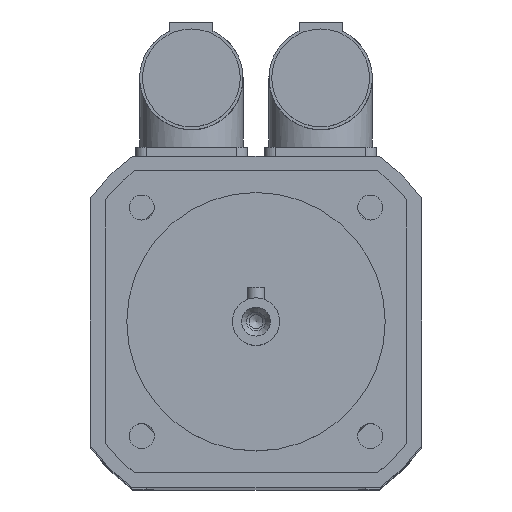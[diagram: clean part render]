
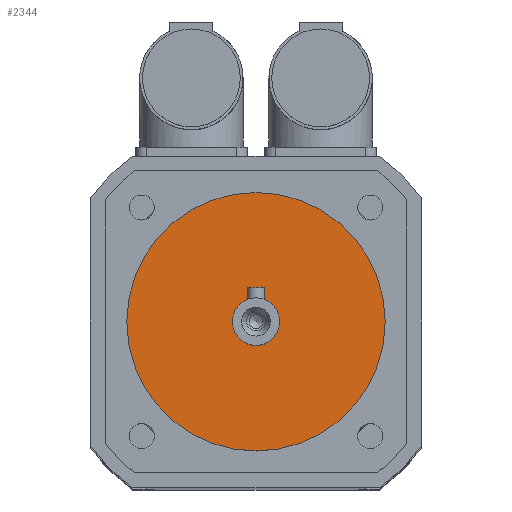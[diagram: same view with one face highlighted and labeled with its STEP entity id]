
A CAD part, top view. The second image highlights one B-rep face of the part: STEP entity #2344.
In plain terms, the highlighted planar face has unit normal (0, 0, 1).
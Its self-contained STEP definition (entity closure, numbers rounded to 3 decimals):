
#472=PLANE('',#2526);
#587=FACE_BOUND('',#805,.T.);
#653=FACE_OUTER_BOUND('',#804,.T.);
#804=EDGE_LOOP('',(#1839));
#805=EDGE_LOOP('',(#1840));
#951=CIRCLE('',#2525,5.5);
#952=CIRCLE('',#2527,30.);
#1114=VERTEX_POINT('',#3730);
#1115=VERTEX_POINT('',#3733);
#1385=EDGE_CURVE('',#1114,#1114,#951,.T.);
#1386=EDGE_CURVE('',#1115,#1115,#952,.T.);
#1839=ORIENTED_EDGE('',*,*,#1386,.F.);
#1840=ORIENTED_EDGE('',*,*,#1385,.T.);
#2344=ADVANCED_FACE('',(#653,#587),#472,.T.);
#2525=AXIS2_PLACEMENT_3D('',#3731,#2946,#2947);
#2526=AXIS2_PLACEMENT_3D('',#3732,#2948,#2949);
#2527=AXIS2_PLACEMENT_3D('',#3734,#2950,#2951);
#2946=DIRECTION('center_axis',(0.,0.,-1.));
#2947=DIRECTION('ref_axis',(1.,0.,0.));
#2948=DIRECTION('center_axis',(0.,0.,1.));
#2949=DIRECTION('ref_axis',(1.,0.,0.));
#2950=DIRECTION('center_axis',(0.,0.,-1.));
#2951=DIRECTION('ref_axis',(1.,0.,0.));
#3730=CARTESIAN_POINT('',(0.,5.5,263.5));
#3731=CARTESIAN_POINT('Origin',(0.,0.,263.5));
#3732=CARTESIAN_POINT('Origin',(0.,30.,263.5));
#3733=CARTESIAN_POINT('',(0.,30.,263.5));
#3734=CARTESIAN_POINT('Origin',(0.,0.,263.5));
